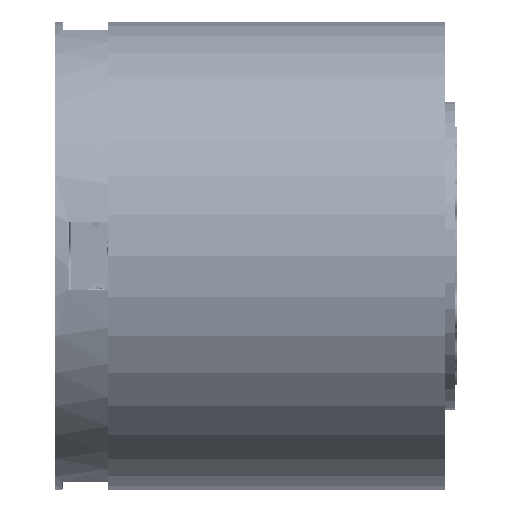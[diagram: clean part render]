
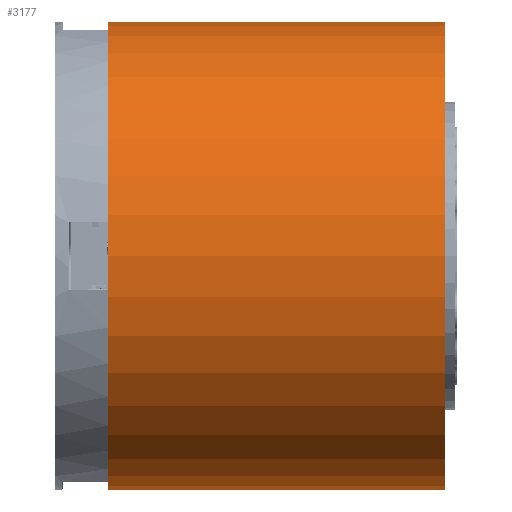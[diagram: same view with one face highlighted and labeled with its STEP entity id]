
A CAD part, left-side view. The second image highlights one B-rep face of the part: STEP entity #3177.
In plain terms, the highlighted cylindrical face has radius 28.5 mm (diameter 57 mm), a partial arc.
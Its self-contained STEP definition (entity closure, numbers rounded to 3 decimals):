
#33=CARTESIAN_POINT('',(0.,1.5,0.));
#34=DIRECTION('',(0.,-1.,0.));
#35=DIRECTION('',(0.,0.,1.));
#36=AXIS2_PLACEMENT_3D('',#33,#34,#35);
#128=DIRECTION('',(0.,1.,0.));
#129=VECTOR('',#128,41.05);
#130=CARTESIAN_POINT('',(0.,1.5,-28.5));
#131=LINE('',#130,#129);
#137=CARTESIAN_POINT('',(0.,42.55,0.));
#138=DIRECTION('',(0.,1.,0.));
#139=DIRECTION('',(0.,0.,-1.));
#140=AXIS2_PLACEMENT_3D('',#137,#138,#139);
#142=DIRECTION('',(0.,1.,0.));
#143=VECTOR('',#142,41.05);
#144=CARTESIAN_POINT('',(0.,1.5,28.5));
#145=LINE('',#144,#143);
#2546=CARTESIAN_POINT('',(0.,1.5,28.5));
#2547=CARTESIAN_POINT('',(0.,1.5,-28.5));
#2548=VERTEX_POINT('',#2546);
#2549=VERTEX_POINT('',#2547);
#2688=CARTESIAN_POINT('',(0.,42.55,28.5));
#2689=CARTESIAN_POINT('',(0.,42.55,-28.5));
#2690=VERTEX_POINT('',#2688);
#2691=VERTEX_POINT('',#2689);
#3166=CARTESIAN_POINT('',(0.,0.,0.));
#3167=DIRECTION('',(0.,-1.,0.));
#3168=DIRECTION('',(0.,0.,-1.));
#3169=AXIS2_PLACEMENT_3D('',#3166,#3167,#3168);
#3170=CYLINDRICAL_SURFACE('',#3169,28.5);
#3171=ORIENTED_EDGE('',*,*,#3150,.F.);
#3172=ORIENTED_EDGE('',*,*,#3083,.T.);
#3173=ORIENTED_EDGE('',*,*,#3147,.T.);
#3174=ORIENTED_EDGE('',*,*,#3161,.T.);
#3175=EDGE_LOOP('',(#3171,#3172,#3173,#3174));
#3176=FACE_OUTER_BOUND('',#3175,.F.);
#3177=ADVANCED_FACE('',(#3176),#3170,.T.);
#37=CIRCLE('',#36,28.5);
#141=CIRCLE('',#140,28.5);
#3083=EDGE_CURVE('',#2548,#2549,#37,.T.);
#3147=EDGE_CURVE('',#2549,#2691,#131,.T.);
#3150=EDGE_CURVE('',#2548,#2690,#145,.T.);
#3161=EDGE_CURVE('',#2691,#2690,#141,.T.);
